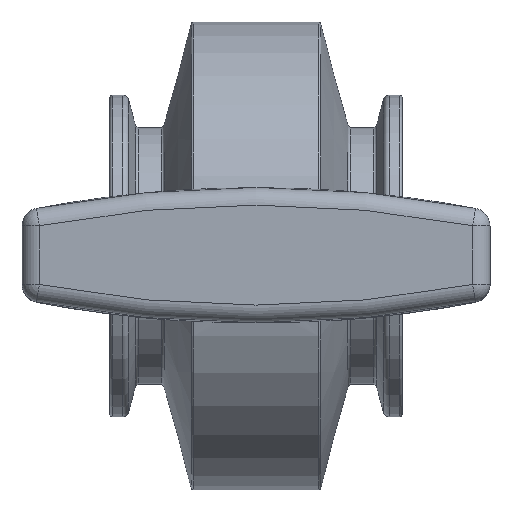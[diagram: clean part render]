
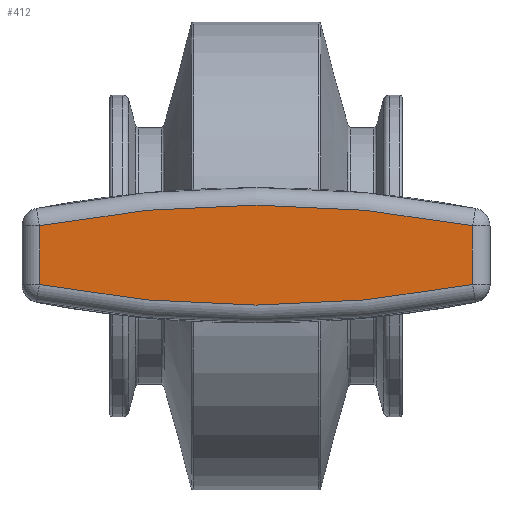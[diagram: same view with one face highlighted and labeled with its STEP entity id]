
A CAD part, top view. The second image highlights one B-rep face of the part: STEP entity #412.
In plain terms, the highlighted planar face has unit normal (0, 0, 1).
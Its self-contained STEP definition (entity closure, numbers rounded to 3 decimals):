
#412 = ADVANCED_FACE( '', ( #641 ), #642, .F. );
#641 = FACE_OUTER_BOUND( '', #803, .T. );
#642 = PLANE( '', #804 );
#803 = EDGE_LOOP( '', ( #1371, #1372, #1373, #1374 ) );
#804 = AXIS2_PLACEMENT_3D( '', #1375, #1376, #1377 );
#1371 = ORIENTED_EDGE( '', *, *, #1835, .T. );
#1372 = ORIENTED_EDGE( '', *, *, #1836, .T. );
#1373 = ORIENTED_EDGE( '', *, *, #1837, .T. );
#1374 = ORIENTED_EDGE( '', *, *, #1838, .T. );
#1375 = CARTESIAN_POINT( '', ( 0., 188.459, 40. ) );
#1376 = DIRECTION( '', ( 0., 0., -1. ) );
#1377 = DIRECTION( '', ( -1., 0., 0. ) );
#1835 = EDGE_CURVE( '', #2033, #2034, #2035, .F. );
#1836 = EDGE_CURVE( '', #2034, #2036, #2037, .F. );
#1837 = EDGE_CURVE( '', #2036, #2038, #2039, .F. );
#1838 = EDGE_CURVE( '', #2038, #2033, #2040, .F. );
#2033 = VERTEX_POINT( '', #2301 );
#2034 = VERTEX_POINT( '', #2302 );
#2035 = CIRCLE( '', #2303, 197. );
#2036 = VERTEX_POINT( '', #2304 );
#2037 = LINE( '', #2305, #2306 );
#2038 = VERTEX_POINT( '', #2307 );
#2039 = CIRCLE( '', #2308, 197. );
#2040 = LINE( '', #2309, #2310 );
#2301 = CARTESIAN_POINT( '', ( -37., -5.035, 40. ) );
#2302 = CARTESIAN_POINT( '', ( 37., -5.035, 40. ) );
#2303 = AXIS2_PLACEMENT_3D( '', #2816, #2817, #2818 );
#2304 = CARTESIAN_POINT( '', ( 37., 5.035, 40. ) );
#2305 = CARTESIAN_POINT( '', ( 37., 7.5, 40. ) );
#2306 = VECTOR( '', #2819, 1000. );
#2307 = CARTESIAN_POINT( '', ( -37., 5.035, 40. ) );
#2308 = AXIS2_PLACEMENT_3D( '', #2820, #2821, #2822 );
#2309 = CARTESIAN_POINT( '', ( -37., -7.5, 40. ) );
#2310 = VECTOR( '', #2823, 1000. );
#2816 = CARTESIAN_POINT( '', ( 0., 188.459, 40. ) );
#2817 = DIRECTION( '', ( 0., 0., -1. ) );
#2818 = DIRECTION( '', ( -1., 0., 0. ) );
#2819 = DIRECTION( '', ( 0., -1., 0. ) );
#2820 = CARTESIAN_POINT( '', ( 0., -188.459, 40. ) );
#2821 = DIRECTION( '', ( 0., 0., -1. ) );
#2822 = DIRECTION( '', ( -1., 0., 0. ) );
#2823 = DIRECTION( '', ( 0., 1., 0. ) );
